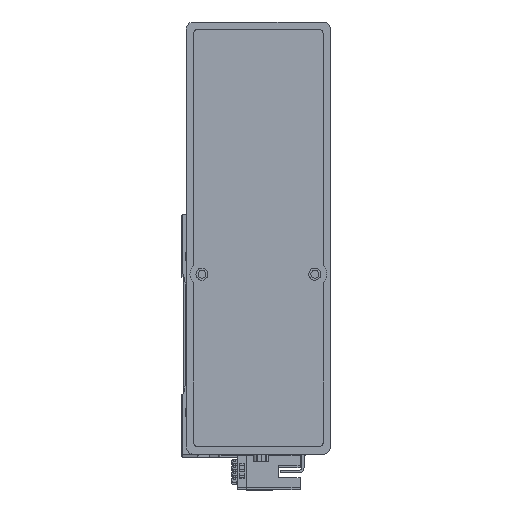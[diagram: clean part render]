
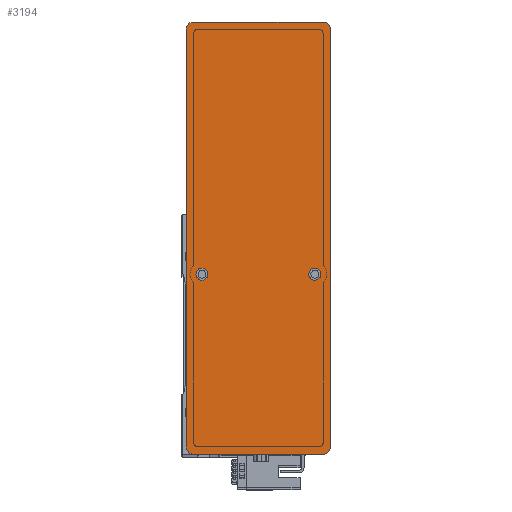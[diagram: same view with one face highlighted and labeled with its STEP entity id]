
A CAD part, top view. The second image highlights one B-rep face of the part: STEP entity #3194.
In plain terms, the highlighted planar face has unit normal (0, 0, 1) as drawn and (0, 0, -1) by its records, which use the part's own axes.
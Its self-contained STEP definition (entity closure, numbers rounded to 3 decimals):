
#2058 = ORIENTED_EDGE ( 'NONE', *, *, #35162, .F. ) ;
#2314 = VERTEX_POINT ( 'NONE', #8615 ) ;
#3194 = ADVANCED_FACE ( 'NONE', ( #37112, #44236, #25605 ), #35368, .F. ) ;
#3983 = DIRECTION ( 'NONE',  ( 0., 0., 1. ) ) ;
#4666 = AXIS2_PLACEMENT_3D ( 'NONE', #33751, #12783, #37288 ) ;
#4695 = CARTESIAN_POINT ( 'NONE',  ( -17.5, 23.5, 0. ) ) ;
#5584 = EDGE_LOOP ( 'NONE', ( #17473, #25255 ) ) ;
#5974 = ORIENTED_EDGE ( 'NONE', *, *, #26920, .F. ) ;
#6255 = AXIS2_PLACEMENT_3D ( 'NONE', #14453, #38994, #17956 ) ;
#6888 = EDGE_CURVE ( 'NONE', #29403, #27394, #9616, .T. ) ;
#8109 = CARTESIAN_POINT ( 'NONE',  ( -15., -23.5, 0. ) ) ;
#8615 = CARTESIAN_POINT ( 'NONE',  ( 87., -30., 0. ) ) ;
#8706 = CIRCLE ( 'NONE', #37157, 2.5 ) ;
#9000 = CARTESIAN_POINT ( 'NONE',  ( 90., 30., 0. ) ) ;
#9059 = CIRCLE ( 'NONE', #33632, 2.5 ) ;
#9357 = EDGE_CURVE ( 'NONE', #15366, #21764, #8706, .T. ) ;
#9616 = CIRCLE ( 'NONE', #43181, 2.5 ) ;
#9789 = AXIS2_PLACEMENT_3D ( 'NONE', #13370, #37901, #16886 ) ;
#9888 = EDGE_LOOP ( 'NONE', ( #5974, #13317, #2058, #11043, #27720, #32908, #27479, #17008 ) ) ;
#10484 = CARTESIAN_POINT ( 'NONE',  ( -17.5, -23.5, 0. ) ) ;
#11043 = ORIENTED_EDGE ( 'NONE', *, *, #34266, .T. ) ;
#11671 = DIRECTION ( 'NONE',  ( -1., 0., 0. ) ) ;
#11827 = VERTEX_POINT ( 'NONE', #28082 ) ;
#12480 = VECTOR ( 'NONE', #42009, 1000. ) ;
#12679 = CARTESIAN_POINT ( 'NONE',  ( -15., 23.5, 0. ) ) ;
#12783 = DIRECTION ( 'NONE',  ( 0., 0., -1. ) ) ;
#13000 = EDGE_CURVE ( 'NONE', #25765, #15914, #31127, .T. ) ;
#13317 = ORIENTED_EDGE ( 'NONE', *, *, #38890, .T. ) ;
#13370 = CARTESIAN_POINT ( 'NONE',  ( -87., -27., 0. ) ) ;
#13526 = CARTESIAN_POINT ( 'NONE',  ( 90., -27., 0. ) ) ;
#14453 = CARTESIAN_POINT ( 'NONE',  ( 87., 27., 0. ) ) ;
#14924 = VERTEX_POINT ( 'NONE', #43448 ) ;
#15013 = CARTESIAN_POINT ( 'NONE',  ( -87., -30., 0. ) ) ;
#15366 = VERTEX_POINT ( 'NONE', #4695 ) ;
#15553 = DIRECTION ( 'NONE',  ( 0., 0., -1. ) ) ;
#15677 = CARTESIAN_POINT ( 'NONE',  ( -90., -27., 0. ) ) ;
#15719 = CARTESIAN_POINT ( 'NONE',  ( 90., -30., 0. ) ) ;
#15914 = VERTEX_POINT ( 'NONE', #15677 ) ;
#16176 = DIRECTION ( 'NONE',  ( -1., 0., 0. ) ) ;
#16886 = DIRECTION ( 'NONE',  ( 1., 0., 0. ) ) ;
#17008 = ORIENTED_EDGE ( 'NONE', *, *, #27452, .T. ) ;
#17283 = CARTESIAN_POINT ( 'NONE',  ( 87., -27., 0. ) ) ;
#17473 = ORIENTED_EDGE ( 'NONE', *, *, #29102, .F. ) ;
#17956 = DIRECTION ( 'NONE',  ( 1., 0., 0. ) ) ;
#18162 = AXIS2_PLACEMENT_3D ( 'NONE', #18435, #42949, #22001 ) ;
#18367 = VECTOR ( 'NONE', #21707, 1000. ) ;
#18435 = CARTESIAN_POINT ( 'NONE',  ( -87., 27., 0. ) ) ;
#19044 = VERTEX_POINT ( 'NONE', #39727 ) ;
#20282 = ORIENTED_EDGE ( 'NONE', *, *, #32117, .F. ) ;
#20833 = DIRECTION ( 'NONE',  ( 1., 0., 0. ) ) ;
#21483 = CARTESIAN_POINT ( 'NONE',  ( 0., 0., 0. ) ) ;
#21501 = VECTOR ( 'NONE', #37060, 1000. ) ;
#21700 = EDGE_CURVE ( 'NONE', #25765, #19044, #38969, .T. ) ;
#21707 = DIRECTION ( 'NONE',  ( 0., 1., 0. ) ) ;
#21764 = VERTEX_POINT ( 'NONE', #32528 ) ;
#22001 = DIRECTION ( 'NONE',  ( 1., 0., 0. ) ) ;
#24238 = EDGE_LOOP ( 'NONE', ( #27865, #20282 ) ) ;
#25255 = ORIENTED_EDGE ( 'NONE', *, *, #6888, .F. ) ;
#25605 = FACE_OUTER_BOUND ( 'NONE', #9888, .T. ) ;
#25765 = VERTEX_POINT ( 'NONE', #29136 ) ;
#26920 = EDGE_CURVE ( 'NONE', #31166, #11827, #37026, .T. ) ;
#27090 = CIRCLE ( 'NONE', #4666, 2.5 ) ;
#27394 = VERTEX_POINT ( 'NONE', #10484 ) ;
#27452 = EDGE_CURVE ( 'NONE', #14924, #11827, #32524, .T. ) ;
#27479 = ORIENTED_EDGE ( 'NONE', *, *, #36335, .F. ) ;
#27720 = ORIENTED_EDGE ( 'NONE', *, *, #13000, .F. ) ;
#27856 = CARTESIAN_POINT ( 'NONE',  ( -12.5, -23.5, 0. ) ) ;
#27865 = ORIENTED_EDGE ( 'NONE', *, *, #9357, .F. ) ;
#28082 = CARTESIAN_POINT ( 'NONE',  ( 90., 27., 0. ) ) ;
#28503 = DIRECTION ( 'NONE',  ( 1., 0., 0. ) ) ;
#29102 = EDGE_CURVE ( 'NONE', #27394, #29403, #9059, .T. ) ;
#29136 = CARTESIAN_POINT ( 'NONE',  ( -90., 27., 0. ) ) ;
#29403 = VERTEX_POINT ( 'NONE', #27856 ) ;
#31104 = CIRCLE ( 'NONE', #37050, 3. ) ;
#31127 = LINE ( 'NONE', #38550, #12480 ) ;
#31166 = VERTEX_POINT ( 'NONE', #13526 ) ;
#31893 = LINE ( 'NONE', #9000, #21501 ) ;
#32117 = EDGE_CURVE ( 'NONE', #21764, #15366, #27090, .T. ) ;
#32524 = CIRCLE ( 'NONE', #6255, 3. ) ;
#32528 = CARTESIAN_POINT ( 'NONE',  ( -12.5, 23.5, 0. ) ) ;
#32615 = DIRECTION ( 'NONE',  ( 0., 0., -1. ) ) ;
#32908 = ORIENTED_EDGE ( 'NONE', *, *, #21700, .T. ) ;
#33632 = AXIS2_PLACEMENT_3D ( 'NONE', #8109, #32615, #11671 ) ;
#33751 = CARTESIAN_POINT ( 'NONE',  ( -15., 23.5, 0. ) ) ;
#33925 = CIRCLE ( 'NONE', #9789, 3. ) ;
#34266 = EDGE_CURVE ( 'NONE', #37129, #15914, #33925, .T. ) ;
#35162 = EDGE_CURVE ( 'NONE', #37129, #2314, #42945, .T. ) ;
#35368 = PLANE ( 'NONE',  #40393 ) ;
#36335 = EDGE_CURVE ( 'NONE', #14924, #19044, #31893, .T. ) ;
#36516 = CARTESIAN_POINT ( 'NONE',  ( -15., -23.5, 0. ) ) ;
#36728 = DIRECTION ( 'NONE',  ( 1., 0., 0. ) ) ;
#37026 = LINE ( 'NONE', #42680, #18367 ) ;
#37050 = AXIS2_PLACEMENT_3D ( 'NONE', #17283, #41806, #20833 ) ;
#37060 = DIRECTION ( 'NONE',  ( -1., 0., 0. ) ) ;
#37112 = FACE_BOUND ( 'NONE', #24238, .T. ) ;
#37129 = VERTEX_POINT ( 'NONE', #15013 ) ;
#37157 = AXIS2_PLACEMENT_3D ( 'NONE', #12679, #37168, #16176 ) ;
#37168 = DIRECTION ( 'NONE',  ( 0., 0., -1. ) ) ;
#37288 = DIRECTION ( 'NONE',  ( -1., 0., 0. ) ) ;
#37901 = DIRECTION ( 'NONE',  ( 0., 0., -1. ) ) ;
#38550 = CARTESIAN_POINT ( 'NONE',  ( -90., -30., 0. ) ) ;
#38890 = EDGE_CURVE ( 'NONE', #31166, #2314, #31104, .T. ) ;
#38969 = CIRCLE ( 'NONE', #18162, 3. ) ;
#38994 = DIRECTION ( 'NONE',  ( 0., 0., -1. ) ) ;
#39727 = CARTESIAN_POINT ( 'NONE',  ( -87., 30., 0. ) ) ;
#40074 = DIRECTION ( 'NONE',  ( -1., 0., 0. ) ) ;
#40393 = AXIS2_PLACEMENT_3D ( 'NONE', #21483, #3983, #28503 ) ;
#41806 = DIRECTION ( 'NONE',  ( 0., 0., -1. ) ) ;
#42009 = DIRECTION ( 'NONE',  ( 0., -1., 0. ) ) ;
#42680 = CARTESIAN_POINT ( 'NONE',  ( 90., -30., 0. ) ) ;
#42945 = LINE ( 'NONE', #15719, #44071 ) ;
#42949 = DIRECTION ( 'NONE',  ( 0., 0., -1. ) ) ;
#43181 = AXIS2_PLACEMENT_3D ( 'NONE', #36516, #15553, #40074 ) ;
#43448 = CARTESIAN_POINT ( 'NONE',  ( 87., 30., 0. ) ) ;
#44071 = VECTOR ( 'NONE', #36728, 1000. ) ;
#44236 = FACE_BOUND ( 'NONE', #5584, .T. ) ;
